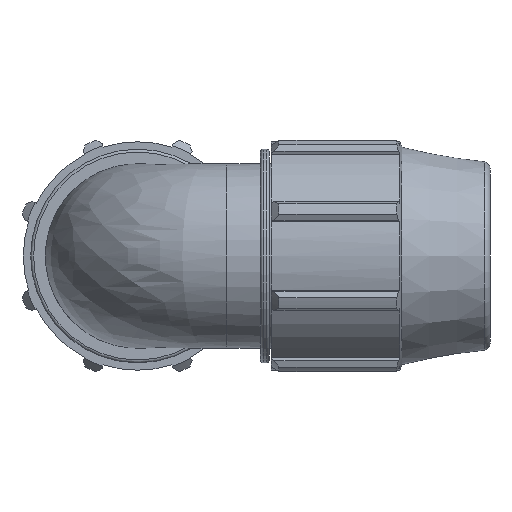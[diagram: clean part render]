
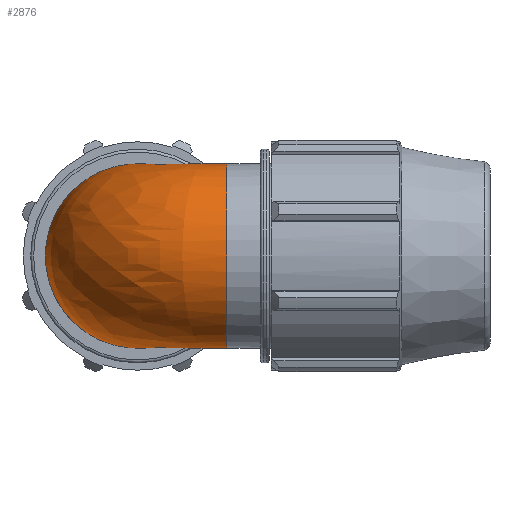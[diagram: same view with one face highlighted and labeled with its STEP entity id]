
A CAD part, front view. The second image highlights one B-rep face of the part: STEP entity #2876.
In plain terms, the highlighted free-form (B-spline) face has degree [2, 2] with [9, 3] control points.
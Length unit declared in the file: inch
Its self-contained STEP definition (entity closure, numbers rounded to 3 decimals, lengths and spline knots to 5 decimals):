
#560=(
BOUNDED_SURFACE()
B_SPLINE_SURFACE(2,2,((#4199,#4200,#4201),(#4202,#4203,#4204),(#4205,#4206,
#4207),(#4208,#4209,#4210),(#4211,#4212,#4213),(#4214,#4215,#4216),(#4217,
#4218,#4219),(#4220,#4221,#4222),(#4223,#4224,#4225)),.UNSPECIFIED.,.F.,
 .F.,.F.)
B_SPLINE_SURFACE_WITH_KNOTS((3,2,2,2,3),(3,3),(-2.88662,-1.44331,
0.,1.44331,2.88662),(-1.5708,0.),
 .UNSPECIFIED.)
GEOMETRIC_REPRESENTATION_ITEM()
RATIONAL_B_SPLINE_SURFACE(((1.,0.707,1.),(0.751,
0.531,0.751),(1.,0.707,1.),(0.751,
0.531,0.751),(1.,0.707,1.),(0.751,
0.531,0.751),(1.,0.707,1.),(0.751,
0.531,0.751),(1.,0.707,1.)))
REPRESENTATION_ITEM('')
SURFACE()
);
#583=FACE_OUTER_BOUND('',#733,.T.);
#733=EDGE_LOOP('',(#1794,#1795,#1796));
#897=CIRCLE('',#3053,2.2425);
#898=CIRCLE('',#3054,2.2425);
#899=CIRCLE('',#3055,2.2425);
#1056=VERTEX_POINT('',#4226);
#1057=VERTEX_POINT('',#4227);
#1058=VERTEX_POINT('',#4229);
#1355=EDGE_CURVE('',#1056,#1057,#897,.T.);
#1356=EDGE_CURVE('',#1058,#1056,#898,.T.);
#1357=EDGE_CURVE('',#1057,#1058,#899,.T.);
#1794=ORIENTED_EDGE('',*,*,#1355,.F.);
#1795=ORIENTED_EDGE('',*,*,#1356,.F.);
#1796=ORIENTED_EDGE('',*,*,#1357,.F.);
#2876=ADVANCED_FACE('',(#583),#560,.F.);
#3053=AXIS2_PLACEMENT_3D('',#4228,#3376,#3377);
#3054=AXIS2_PLACEMENT_3D('',#4230,#3378,#3379);
#3055=AXIS2_PLACEMENT_3D('',#4231,#3380,#3381);
#3376=DIRECTION('center_axis',(1.,0.,0.));
#3377=DIRECTION('ref_axis',(0.,0.,-1.));
#3378=DIRECTION('center_axis',(0.,1.,0.));
#3379=DIRECTION('ref_axis',(0.,0.,-1.));
#3380=DIRECTION('center_axis',(1.,0.,0.));
#3381=DIRECTION('ref_axis',(0.,0.,-1.));
#4199=CARTESIAN_POINT('Ctrl Pts',(2.17,2.17,0.5656));
#4200=CARTESIAN_POINT('Ctrl Pts',(2.17,2.17,0.5656));
#4201=CARTESIAN_POINT('Ctrl Pts',(2.17,2.17,0.5656));
#4202=CARTESIAN_POINT('Ctrl Pts',(2.17,1.67227,2.4752));
#4203=CARTESIAN_POINT('Ctrl Pts',(1.67227,1.67227,2.4752));
#4204=CARTESIAN_POINT('Ctrl Pts',(1.67227,2.17,2.4752));
#4205=CARTESIAN_POINT('Ctrl Pts',(2.17,-0.28512,2.2243));
#4206=CARTESIAN_POINT('Ctrl Pts',(-0.28512,-0.28512,
2.2243));
#4207=CARTESIAN_POINT('Ctrl Pts',(-0.28512,2.17,2.2243));
#4208=CARTESIAN_POINT('Ctrl Pts',(2.17,-2.2425,1.9734));
#4209=CARTESIAN_POINT('Ctrl Pts',(-2.2425,-2.2425,1.9734));
#4210=CARTESIAN_POINT('Ctrl Pts',(-2.2425,2.17,1.9734));
#4211=CARTESIAN_POINT('Ctrl Pts',(2.17,-2.2425,0.));
#4212=CARTESIAN_POINT('Ctrl Pts',(-2.2425,-2.2425,0.));
#4213=CARTESIAN_POINT('Ctrl Pts',(-2.2425,2.17,0.));
#4214=CARTESIAN_POINT('Ctrl Pts',(2.17,-2.2425,-1.9734));
#4215=CARTESIAN_POINT('Ctrl Pts',(-2.2425,-2.2425,-1.9734));
#4216=CARTESIAN_POINT('Ctrl Pts',(-2.2425,2.17,-1.9734));
#4217=CARTESIAN_POINT('Ctrl Pts',(2.17,-0.28512,-2.2243));
#4218=CARTESIAN_POINT('Ctrl Pts',(-0.28512,-0.28512,
-2.2243));
#4219=CARTESIAN_POINT('Ctrl Pts',(-0.28512,2.17,-2.2243));
#4220=CARTESIAN_POINT('Ctrl Pts',(2.17,1.67227,-2.4752));
#4221=CARTESIAN_POINT('Ctrl Pts',(1.67227,1.67227,-2.4752));
#4222=CARTESIAN_POINT('Ctrl Pts',(1.67227,2.17,-2.4752));
#4223=CARTESIAN_POINT('Ctrl Pts',(2.17,2.17,-0.5656));
#4224=CARTESIAN_POINT('Ctrl Pts',(2.17,2.17,-0.5656));
#4225=CARTESIAN_POINT('Ctrl Pts',(2.17,2.17,-0.5656));
#4226=CARTESIAN_POINT('',(2.17,2.17,0.5656));
#4227=CARTESIAN_POINT('',(2.17,-2.2425,0.));
#4228=CARTESIAN_POINT('Origin',(2.17,0.,0.));
#4229=CARTESIAN_POINT('',(2.17,2.17,-0.5656));
#4230=CARTESIAN_POINT('Origin',(0.,2.17,0.));
#4231=CARTESIAN_POINT('Origin',(2.17,0.,0.));
